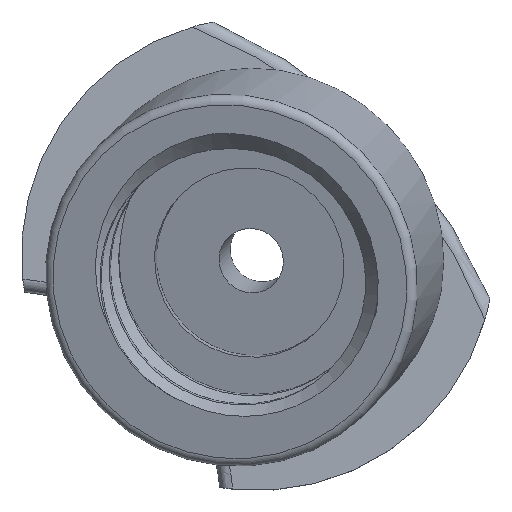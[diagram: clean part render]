
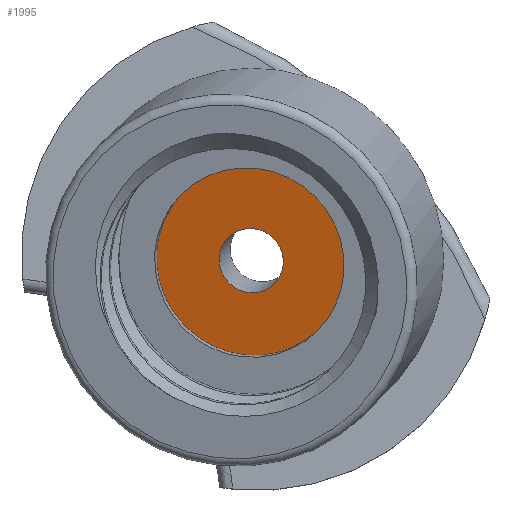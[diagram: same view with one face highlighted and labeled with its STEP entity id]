
A CAD part, top view. The second image highlights one B-rep face of the part: STEP entity #1995.
In plain terms, the highlighted planar face has unit normal (-0.183, -0.183, 0.966).
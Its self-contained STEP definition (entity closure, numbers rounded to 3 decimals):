
#1076 = CYLINDRICAL_SURFACE('',#1077,0.9);
#1077 = AXIS2_PLACEMENT_3D('',#1078,#1079,#1080);
#1078 = CARTESIAN_POINT('',(0.366,0.366,
    -1.094));
#1079 = DIRECTION('',(0.183,0.183,-0.966));
#1080 = DIRECTION('',(0.683,0.683,0.259));
#1880 = VERTEX_POINT('',#1881);
#1881 = CARTESIAN_POINT('',(0.432,0.432,2.037
    ));
#1902 = EDGE_CURVE('',#1880,#1880,#1903,.T.);
#1903 = SURFACE_CURVE('',#1904,(#1909,#1916),.PCURVE_S1.);
#1904 = CIRCLE('',#1905,0.9);
#1905 = AXIS2_PLACEMENT_3D('',#1906,#1907,#1908);
#1906 = CARTESIAN_POINT('',(-0.183,-0.183,
    1.804));
#1907 = DIRECTION('',(0.183,0.183,-0.966));
#1908 = DIRECTION('',(0.683,0.683,0.259));
#1909 = PCURVE('',#1076,#1910);
#1910 = DEFINITIONAL_REPRESENTATION('',(#1911),#1915);
#1911 = LINE('',#1912,#1913);
#1912 = CARTESIAN_POINT('',(-6.283,-3.));
#1913 = VECTOR('',#1914,1.);
#1914 = DIRECTION('',(1.,-0.));
#1915 = ( GEOMETRIC_REPRESENTATION_CONTEXT(2) 
PARAMETRIC_REPRESENTATION_CONTEXT() REPRESENTATION_CONTEXT('2D SPACE',''
  ) );
#1916 = PCURVE('',#1917,#1922);
#1917 = PLANE('',#1918);
#1918 = AXIS2_PLACEMENT_3D('',#1919,#1920,#1921);
#1919 = CARTESIAN_POINT('',(-0.183,-0.183,
    1.804));
#1920 = DIRECTION('',(-0.183,-0.183,0.966));
#1921 = DIRECTION('',(0.683,0.683,0.259));
#1922 = DEFINITIONAL_REPRESENTATION('',(#1923),#1931);
#1923 = ( BOUNDED_CURVE() B_SPLINE_CURVE(2,(#1924,#1925,#1926,#1927,
#1928,#1929,#1930),.UNSPECIFIED.,.T.,.F.) B_SPLINE_CURVE_WITH_KNOTS((1,2
    ,2,2,2,1),(-2.094,0.,2.094,4.189,
6.283,8.378),.UNSPECIFIED.) CURVE() 
GEOMETRIC_REPRESENTATION_ITEM() RATIONAL_B_SPLINE_CURVE((1.,0.5,1.,0.5,
1.,0.5,1.)) REPRESENTATION_ITEM('') );
#1924 = CARTESIAN_POINT('',(0.9,0.));
#1925 = CARTESIAN_POINT('',(0.9,-1.559));
#1926 = CARTESIAN_POINT('',(-0.45,-0.779));
#1927 = CARTESIAN_POINT('',(-1.8,0.));
#1928 = CARTESIAN_POINT('',(-0.45,0.779));
#1929 = CARTESIAN_POINT('',(0.9,1.559));
#1930 = CARTESIAN_POINT('',(0.9,0.));
#1931 = ( GEOMETRIC_REPRESENTATION_CONTEXT(2) 
PARAMETRIC_REPRESENTATION_CONTEXT() REPRESENTATION_CONTEXT('2D SPACE',''
  ) );
#1995 = ADVANCED_FACE('',(#1996,#2027),#1917,.T.);
#1996 = FACE_BOUND('',#1997,.T.);
#1997 = EDGE_LOOP('',(#1998));
#1998 = ORIENTED_EDGE('',*,*,#1999,.T.);
#1999 = EDGE_CURVE('',#2000,#2000,#2002,.T.);
#2000 = VERTEX_POINT('',#2001);
#2001 = CARTESIAN_POINT('',(1.627,1.627,2.49
    ));
#2002 = SURFACE_CURVE('',#2003,(#2008,#2015),.PCURVE_S1.);
#2003 = CIRCLE('',#2004,2.65);
#2004 = AXIS2_PLACEMENT_3D('',#2005,#2006,#2007);
#2005 = CARTESIAN_POINT('',(-0.183,-0.183,
    1.804));
#2006 = DIRECTION('',(-0.183,-0.183,0.966));
#2007 = DIRECTION('',(0.683,0.683,0.259));
#2008 = PCURVE('',#1917,#2009);
#2009 = DEFINITIONAL_REPRESENTATION('',(#2010),#2014);
#2010 = CIRCLE('',#2011,2.65);
#2011 = AXIS2_PLACEMENT_2D('',#2012,#2013);
#2012 = CARTESIAN_POINT('',(0.,0.));
#2013 = DIRECTION('',(1.,0.));
#2014 = ( GEOMETRIC_REPRESENTATION_CONTEXT(2) 
PARAMETRIC_REPRESENTATION_CONTEXT() REPRESENTATION_CONTEXT('2D SPACE',''
  ) );
#2015 = PCURVE('',#2016,#2021);
#2016 = CYLINDRICAL_SURFACE('',#2017,2.65);
#2017 = AXIS2_PLACEMENT_3D('',#2018,#2019,#2020);
#2018 = CARTESIAN_POINT('',(-0.183,-0.183,
    1.804));
#2019 = DIRECTION('',(0.183,0.183,-0.966));
#2020 = DIRECTION('',(0.683,0.683,0.259));
#2021 = DEFINITIONAL_REPRESENTATION('',(#2022),#2026);
#2022 = LINE('',#2023,#2024);
#2023 = CARTESIAN_POINT('',(-0.,0.));
#2024 = VECTOR('',#2025,1.);
#2025 = DIRECTION('',(-1.,0.));
#2026 = ( GEOMETRIC_REPRESENTATION_CONTEXT(2) 
PARAMETRIC_REPRESENTATION_CONTEXT() REPRESENTATION_CONTEXT('2D SPACE',''
  ) );
#2027 = FACE_BOUND('',#2028,.T.);
#2028 = EDGE_LOOP('',(#2029));
#2029 = ORIENTED_EDGE('',*,*,#1902,.T.);
